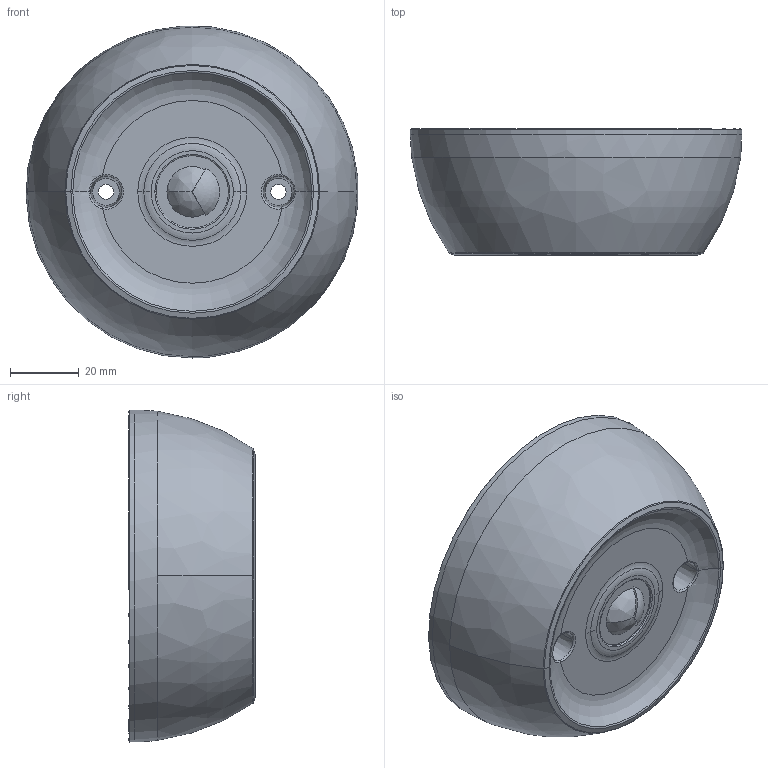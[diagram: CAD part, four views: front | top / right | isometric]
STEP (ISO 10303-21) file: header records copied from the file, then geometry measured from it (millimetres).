
FILE_DESCRIPTION((''),'2;1');
FILE_NAME('15012080Z_DMEC_MIDBAY_SM_TOP','2017-12-29T',('Emanuel.Wild'),(''),'PRO/ENGINEER BY PARAMETRIC TECHNOLOGY CORPORATION, 2015200','PRO/ENGINEER BY PARAMETRIC TECHNOLOGY CORPORATION, 2015200','');
FILE_SCHEMA(('AUTOMOTIVE_DESIGN { 1 0 10303 214 1 1 1 1 }'));
Length unit declared in the file: millimetre
Products named in the file (1): 15012080Z_DMEC_MIDBAY_SM_TOP
Bounding box: 96.17 x 36.6 x 96.27 mm (x, y, z)
Volume: 209859.6 mm3; surface area: 24634 mm2
Topology: 1 solids, 2 shells, 93 faces, 215 edges, 132 vertices
Faces by surface type: torus 24, plane 21, cone 20, cylinder 17, bspline 10, sphere 1
Entity records: 4149 total; most frequent: CARTESIAN_POINT 981, DIRECTION 486, ORIENTED_EDGE 426, AXIS2_PLACEMENT_3D 220, PRESENTATION_STYLE_ASSIGNMENT 214, STYLED_ITEM 214, CURVE_STYLE 213, EDGE_CURVE 213
